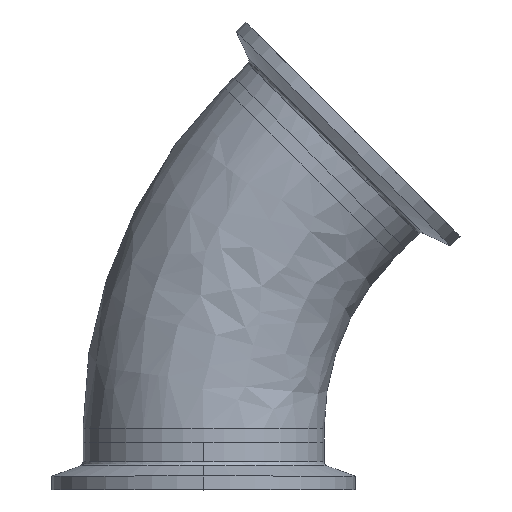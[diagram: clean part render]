
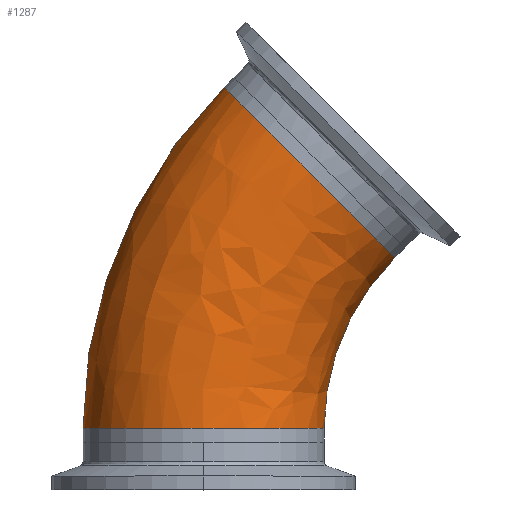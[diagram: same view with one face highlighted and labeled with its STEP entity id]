
A CAD part, top view. The second image highlights one B-rep face of the part: STEP entity #1287.
In plain terms, the highlighted free-form (B-spline) face has degree [3, 3] with [4, 4] control points.
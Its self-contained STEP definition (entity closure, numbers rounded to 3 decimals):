
#1 = ORIENTED_EDGE ( 'NONE', *, *, #402, .T. ) ;
#17 = AXIS2_PLACEMENT_3D ( 'NONE', #590, #631, #3271 ) ;
#81 = ORIENTED_EDGE ( 'NONE', *, *, #1761, .T. ) ;
#90 = VERTEX_POINT ( 'NONE', #2509 ) ;
#226 = CARTESIAN_POINT ( 'NONE',  ( 40.279, 38.858, 0. ) ) ;
#281 = ORIENTED_EDGE ( 'NONE', *, *, #1508, .T. ) ;
#402 = EDGE_CURVE ( 'NONE', #2232, #90, #1315, .T. ) ;
#509 = EDGE_CURVE ( 'NONE', #2232, #2311, #541, .T. ) ;
#541 = CIRCLE ( 'NONE', #17, 101.6 ) ;
#590 = CARTESIAN_POINT ( 'NONE',  ( 76.2, 2.937, 0. ) ) ;
#631 = DIRECTION ( 'NONE',  ( 0., 0., -1. ) ) ;
#971 = DIRECTION ( 'NONE',  ( -0.707, -0.707, 0. ) ) ;
#1094 = ORIENTED_EDGE ( 'NONE', *, *, #509, .F. ) ;
#1241 =( BOUNDED_SURFACE ( )  B_SPLINE_SURFACE ( 3, 3, ( 
 ( #2258, #2338, #1941, #2137 ),
 ( #2012, #2008, #2002, #1911 ),
 ( #1969, #1871, #1897, #1789 ),
 ( #1749, #1631, #1553, #226 ) ),
 .UNSPECIFIED., .F., .F., .T. ) 
 B_SPLINE_SURFACE_WITH_KNOTS ( ( 4, 4 ),
 ( 4, 4 ),
 ( 0., 1. ),
 ( 0., 1. ),
 .UNSPECIFIED. ) 
 GEOMETRIC_REPRESENTATION_ITEM ( )  RATIONAL_B_SPLINE_SURFACE ( (
 ( 1., 0.949, 0.949, 1.),
 ( 0.333, 0.316, 0.316, 0.333),
 ( 0.333, 0.316, 0.316, 0.333),
 ( 1., 0.949, 0.949, 1.) ) ) 
 REPRESENTATION_ITEM ( '' )  SURFACE ( )  );
#1287 = ADVANCED_FACE ( 'NONE', ( #3164 ), #1241, .T. ) ;
#1315 = CIRCLE ( 'NONE', #2321, 25.4 ) ;
#1324 = DIRECTION ( 'NONE',  ( 0., 0., -1. ) ) ;
#1508 = EDGE_CURVE ( 'NONE', #2267, #2311, #2713, .T. ) ;
#1547 = CIRCLE ( 'NONE', #2293, 50.8 ) ;
#1553 = CARTESIAN_POINT ( 'NONE',  ( 30.625, 29.204, 0. ) ) ;
#1631 = CARTESIAN_POINT ( 'NONE',  ( 25.4, 16.59, 0. ) ) ;
#1724 = AXIS2_PLACEMENT_3D ( 'NONE', #2511, #971, #2767 ) ;
#1749 = CARTESIAN_POINT ( 'NONE',  ( 25.4, 2.937, 0. ) ) ;
#1761 = EDGE_CURVE ( 'NONE', #90, #2267, #1547, .T. ) ;
#1789 = CARTESIAN_POINT ( 'NONE',  ( 40.279, 38.858, 50.8 ) ) ;
#1871 = CARTESIAN_POINT ( 'NONE',  ( 25.4, 16.59, 50.8 ) ) ;
#1887 = DIRECTION ( 'NONE',  ( -1., 0., 0. ) ) ;
#1897 = CARTESIAN_POINT ( 'NONE',  ( 30.625, 29.204, 50.8 ) ) ;
#1911 = CARTESIAN_POINT ( 'NONE',  ( 4.358, 74.779, 50.8 ) ) ;
#1931 = DIRECTION ( 'NONE',  ( 0., 1., 0. ) ) ;
#1941 = CARTESIAN_POINT ( 'NONE',  ( -14.95, 55.471, 0. ) ) ;
#1964 = CARTESIAN_POINT ( 'NONE',  ( 0., 2.937, 0. ) ) ;
#1969 = CARTESIAN_POINT ( 'NONE',  ( 25.4, 2.937, 50.8 ) ) ;
#2002 = CARTESIAN_POINT ( 'NONE',  ( -14.95, 55.471, 50.8 ) ) ;
#2008 = CARTESIAN_POINT ( 'NONE',  ( -25.4, 30.243, 50.8 ) ) ;
#2012 = CARTESIAN_POINT ( 'NONE',  ( -25.4, 2.937, 50.8 ) ) ;
#2137 = CARTESIAN_POINT ( 'NONE',  ( 4.358, 74.779, 0. ) ) ;
#2232 = VERTEX_POINT ( 'NONE', #3080 ) ;
#2258 = CARTESIAN_POINT ( 'NONE',  ( -25.4, 2.937, 0. ) ) ;
#2267 = VERTEX_POINT ( 'NONE', #2620 ) ;
#2293 = AXIS2_PLACEMENT_3D ( 'NONE', #2842, #1324, #3086 ) ;
#2311 = VERTEX_POINT ( 'NONE', #3214 ) ;
#2321 = AXIS2_PLACEMENT_3D ( 'NONE', #1964, #1931, #1887 ) ;
#2338 = CARTESIAN_POINT ( 'NONE',  ( -25.4, 30.243, 0. ) ) ;
#2509 = CARTESIAN_POINT ( 'NONE',  ( 25.4, 2.937, 0. ) ) ;
#2511 = CARTESIAN_POINT ( 'NONE',  ( 22.318, 56.818, 0. ) ) ;
#2620 = CARTESIAN_POINT ( 'NONE',  ( 40.279, 38.858, 0. ) ) ;
#2713 = CIRCLE ( 'NONE', #1724, 25.4 ) ;
#2767 = DIRECTION ( 'NONE',  ( -0.707, 0.707, 0. ) ) ;
#2842 = CARTESIAN_POINT ( 'NONE',  ( 76.2, 2.937, 0. ) ) ;
#3080 = CARTESIAN_POINT ( 'NONE',  ( -25.4, 2.937, 0. ) ) ;
#3086 = DIRECTION ( 'NONE',  ( -1., 0., 0. ) ) ;
#3164 = FACE_OUTER_BOUND ( 'NONE', #3212, .T. ) ;
#3212 = EDGE_LOOP ( 'NONE', ( #1, #81, #281, #1094 ) ) ;
#3214 = CARTESIAN_POINT ( 'NONE',  ( 4.358, 74.779, 0. ) ) ;
#3271 = DIRECTION ( 'NONE',  ( -1., 0., 0. ) ) ;
